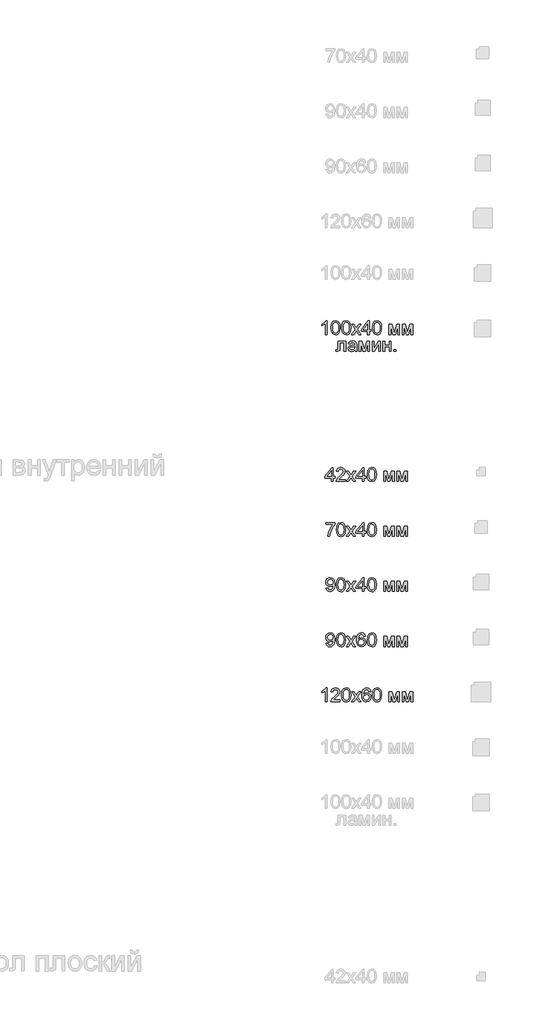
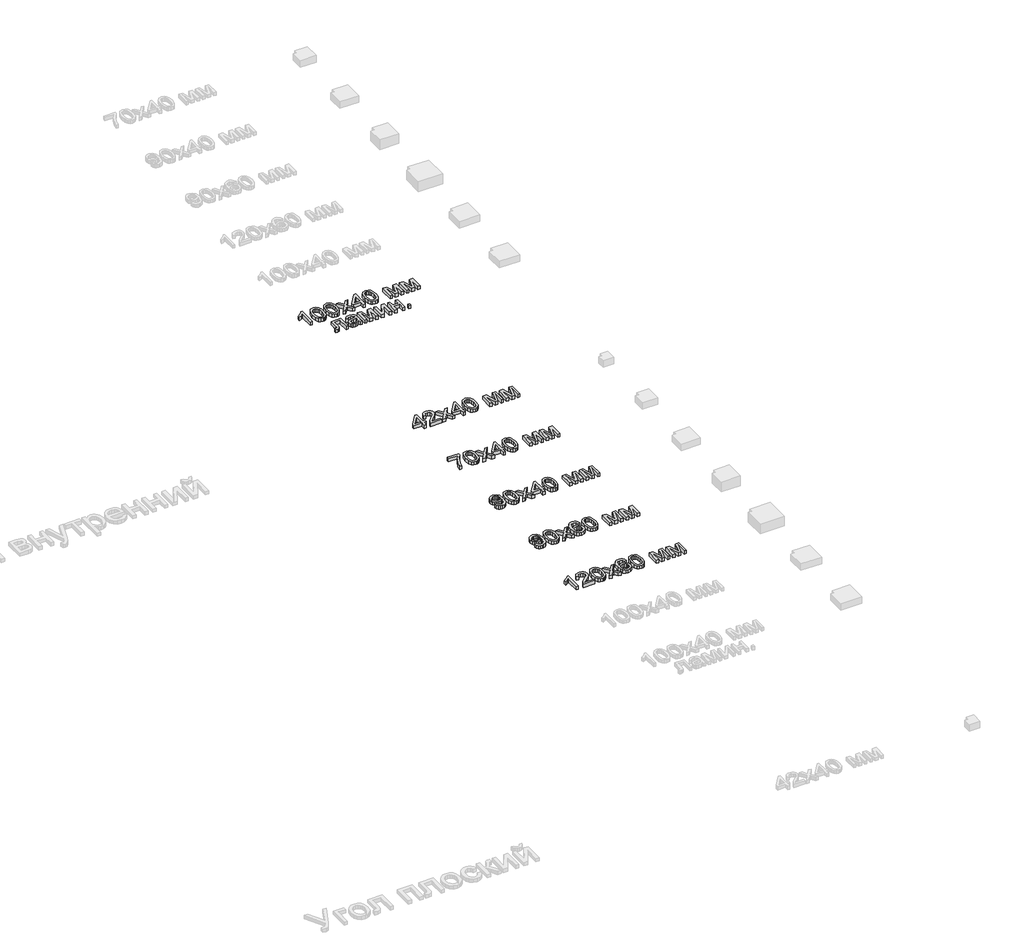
# One storey, part 12 of 21: 6 proxies.
"""IFC4 building model written with IfcOpenShell, lengths in millimetres."""

import ifcopenshell
import ifcopenshell.guid

model = None  # the IFC model being written
_history = None  # IfcOwnerHistory: only IFC2X3 demands one
_inside = {}  # id of a spatial element -> (the spatial element, [elements in it])
_under = {}  # id of a project, library or spatial element -> (it, [spatial elements below it])
_declared = {}  # id of a project -> (the project, [libraries it declares])
_typed = {}  # id of a type object -> (the type object, [elements of that type])
_made_of = {}  # id of a material, layer set ... -> (it, [elements and type objects made of it])


def new_model(schema):
    """Start an empty IFC model of exactly this schema.

    Asked for "IFC4X3", IfcOpenShell would pick the latest addendum, in which some entities
    have other attributes; the version numbers below select the first issue.
    IFC2X3 requires an IfcOwnerHistory on every rooted entity: one is made here for all.
    """
    global model, _history
    if schema == "IFC4X3":
        model = ifcopenshell.file(schema_version=(4, 3, 0, 0))
    else:
        model = ifcopenshell.file(schema=schema)
    _inside.clear()
    _under.clear()
    _declared.clear()
    _typed.clear()
    _made_of.clear()
    _history = None
    if model.schema == "IFC2X3":
        org = make("IfcOrganization", Name="unknown")
        user = make(
            "IfcPersonAndOrganization",
            ThePerson=make("IfcPerson", FamilyName="unknown"),
            TheOrganization=org,
        )
        app = make(
            "IfcApplication",
            ApplicationDeveloper=org,
            Version="unknown",
            ApplicationFullName="unknown",
            ApplicationIdentifier="unknown",
        )
        _history = make(
            "IfcOwnerHistory",
            OwningUser=user,
            OwningApplication=app,
            ChangeAction="ADDED",
            CreationDate=0,
        )
    return model


def make(cls, **values):
    """One entity of the class cls with the attributes given. An attribute that is None is left unset."""
    return model.create_entity(
        cls, **{name: value for name, value in values.items() if value is not None}
    )


def rooted(cls, **values):
    """An entity with a GlobalId (a new one), such as an element, a storey or a relation."""
    return make(cls, GlobalId=ifcopenshell.guid.new(), OwnerHistory=_history, **values)


def si_unit(unit_type, name, prefix=None):
    """IfcSIUnit, for example si_unit("LENGTHUNIT", "METRE", prefix="MILLI")."""
    return make("IfcSIUnit", UnitType=unit_type, Prefix=prefix, Name=name)


def assignment(units):
    """IfcUnitAssignment: the units of a project."""
    return None if units is None else make("IfcUnitAssignment", Units=units)


def point(xyz):
    """IfcCartesianPoint."""
    return None if xyz is None else make("IfcCartesianPoint", Coordinates=xyz)


def direction(xyz):
    """IfcDirection."""
    return None if xyz is None else make("IfcDirection", DirectionRatios=xyz)


def frame(location, z_axis=None, x_axis=None):
    """IfcAxis2Placement3D, a coordinate frame: its origin and axes. An axis left out is left unset."""
    return make(
        "IfcAxis2Placement3D",
        Location=point(location),
        Axis=direction(z_axis),
        RefDirection=direction(x_axis),
    )


def origin():
    """The frame at (0, 0, 0) with its axes left unset."""
    return frame((0.0, 0.0, 0.0))


def origin_with_axes():
    """The frame at (0, 0, 0) with the z axis (0, 0, 1) and the x axis (1, 0, 0) written out."""
    return frame((0.0, 0.0, 0.0), z_axis=(0.0, 0.0, 1.0), x_axis=(1.0, 0.0, 0.0))


def place(relative_to, where):
    """IfcLocalPlacement: puts the frame where relative to a parent placement (None: the world)."""
    return make(
        "IfcLocalPlacement", PlacementRelTo=relative_to, RelativePlacement=where
    )


def context(
    kind, dimensions, precision=None, world=None, true_north=None, identifier=None
):
    """IfcGeometricRepresentationContext, for example the 3D "Model" context."""
    return make(
        "IfcGeometricRepresentationContext",
        ContextIdentifier=identifier,
        ContextType=kind,
        CoordinateSpaceDimension=dimensions,
        Precision=precision,
        WorldCoordinateSystem=world,
        TrueNorth=true_north,
    )


def project(units=None, contexts=None):
    """IfcProject with its units and contexts."""
    return rooted(
        "IfcProject",
        Name="project",
        RepresentationContexts=contexts,
        UnitsInContext=assignment(units),
    )


def spatial(cls, under=None, at=None, **own):
    """A site, building, storey or space (cls), placed at a placement, below another one or the project."""
    s = rooted(cls, ObjectPlacement=at, **own)
    if under is not None:
        _under.setdefault(under.id(), (under, []))[1].append(s)
    return s


def polyline(points):
    """IfcPolyline through the points."""
    return make("IfcPolyline", Points=[point(p) for p in points])


def outline(outer, holes=None, kind="AREA"):
    """IfcArbitraryClosedProfileDef: a profile drawn as a closed curve; with holes, ...WithVoids."""
    if holes is None:
        return make("IfcArbitraryClosedProfileDef", ProfileType=kind, OuterCurve=outer)
    return make(
        "IfcArbitraryProfileDefWithVoids",
        ProfileType=kind,
        OuterCurve=outer,
        InnerCurves=holes,
    )


def extrude(swept, where, along, depth):
    """IfcExtrudedAreaSolid: the profile swept, set in the frame where, extruded along a direction by depth."""
    return make(
        "IfcExtrudedAreaSolid",
        SweptArea=swept,
        Position=where,
        ExtrudedDirection=direction(along),
        Depth=depth,
    )


def shape(context_of_items, identifier, shape_type, items):
    """IfcShapeRepresentation: the items that make up one representation, for example the "Body"."""
    return make(
        "IfcShapeRepresentation",
        ContextOfItems=context_of_items,
        RepresentationIdentifier=identifier,
        RepresentationType=shape_type,
        Items=items,
    )


def made_of(thing, what):
    """Note that an element or type object is made of a material, layer set ...; save() writes the relation."""
    if what is not None:
        _made_of.setdefault(what.id(), (what, []))[1].append(thing)
    return thing


def element(
    cls,
    number,
    at=None,
    inside=None,
    cuts=None,
    type_object=None,
    material=None,
    context=None,
    identifier="Body",
    shape_type=None,
    held_by="IfcProductDefinitionShape",
    body=None,
    shapes=None,
    **own,
):
    """One element of the class cls, such as IfcWall. Its Tag is "e" and its number.

    at: its placement. inside: the storey or other place that contains it. cuts: it is an
    opening in that element (IfcRelVoidsElement). A single representation is given by context,
    identifier, shape_type and body (its items); several are given by shapes. held_by: the class
    of the entity that holds the representations. save() writes the other relations.
    """
    e = rooted(cls, Tag="e%d" % number, ObjectPlacement=at, **own)
    if body is not None:
        shapes = [shape(context, identifier, shape_type, body)]
    if shapes is not None:
        e.Representation = make(held_by, Representations=shapes)
    if inside is not None:
        _inside.setdefault(inside.id(), (inside, []))[1].append(e)
    if cuts is not None:
        rooted(
            "IfcRelVoidsElement", RelatingBuildingElement=cuts, RelatedOpeningElement=e
        )
    if type_object is not None:
        _typed.setdefault(type_object.id(), (type_object, []))[1].append(e)
    return made_of(e, material)


def aggregate(whole, parts):
    """IfcRelAggregates: a whole, such as a stair, and the parts it consists of."""
    return rooted("IfcRelAggregates", RelatingObject=whole, RelatedObjects=parts)


def save(model, path):
    """Write the relations noted so far, then the file.

    IfcRelAggregates (storeys below a building ...), IfcRelContainedInSpatialStructure (elements
    in a storey), IfcRelDefinesByType, IfcRelAssociatesMaterial and IfcRelDeclares: one each for
    every whole, place, type object, material and project.
    """
    for whole, parts in _under.values():
        aggregate(whole, parts)
    for where, things in _inside.values():
        rooted(
            "IfcRelContainedInSpatialStructure",
            RelatedElements=things,
            RelatingStructure=where,
        )
    for kind, things in _typed.values():
        rooted("IfcRelDefinesByType", RelatedObjects=things, RelatingType=kind)
    for what, things in _made_of.values():
        rooted("IfcRelAssociatesMaterial", RelatedObjects=things, RelatingMaterial=what)
    for by, libraries in _declared.values():
        rooted("IfcRelDeclares", RelatingContext=by, RelatedDefinitions=libraries)
    model.write(path)


model = new_model("IFC4")

# Units and contexts
model_context = context("Model", 3, world=origin())
ifc_project = project(units=[si_unit("LENGTHUNIT", "METRE", prefix="MILLI")], contexts=[model_context])

# Site, building, storey
site = spatial("IfcSite", under=ifc_project)
building = spatial("IfcBuilding", under=site)
storey = spatial("IfcBuildingStorey", under=building, Name="Этаж 01", Elevation=0.0)

# Proxies
placement = place(None, origin())
element("IfcBuildingElementProxy", 1, Name="100 мм Arial", ObjectType="100 мм Arial", at=placement, inside=storey, context=model_context, shape_type="SweptSolid", body=[
    extrude(outline(polyline([(22758.4927799, -11133.4621169), (22745.9357412, -11133.4621169), (22745.9357412, -11055.1768283), (22734.04089, -11063.6503769), (22720.8216636, -11069.99021), (22720.8216636, -11058.1198843), (22739.2280261, -11046.3721859), (22750.399376, -11033.0058067), (22758.4927799, -11033.0058067), (22758.4927799, -11133.4621169)])), origin_with_axes(), (0.0, 0.0, 1.0), 20.0),
    extrude(outline(polyline([(22788.315747, -11084.0433022), (22792.0068297, -11055.1400401), (22802.9697131, -11038.4749857), (22821.2779738, -11033.0058067), (22835.9442026, -11036.2431683), (22846.0732202, -11045.5751082), (22851.9593322, -11060.4375408), (22854.2402005, -11084.0433022), (22850.585906, -11112.8239369), (22839.6598108, -11129.5257795), (22831.4284511, -11133.6552549), (22821.2779738, -11135.0317467), (22808.2304257, -11132.6405137), (22798.3221373, -11125.4668148), (22790.8173446, -11108.476798), (22788.315747, -11084.0433022)]), holes=[polyline([(22800.8727858, -11084.0187767), (22802.3443137, -11103.7709742), (22806.7588977, -11115.2029072), (22813.3317227, -11120.6567578), (22821.2779738, -11122.4747079), (22829.2242249, -11120.6506264), (22835.7970498, -11115.1783817), (22840.2116338, -11103.7403173), (22841.6831618, -11084.0187767), (22840.2606847, -11064.7111033), (22835.9932536, -11053.1902655), (22829.4326913, -11047.4697005), (22821.130821, -11045.5628455), (22813.270409, -11047.2428399), (22806.9551014, -11052.2828233), (22802.3933647, -11064.521031), (22800.8727858, -11084.0187767)])]), origin_with_axes(), (0.0, 0.0, 1.0), 20.0),
    extrude(outline(polyline([(22865.2276095, -11084.0433022), (22868.9186921, -11055.1400401), (22879.8815756, -11038.4749857), (22898.1898362, -11033.0058067), (22912.8560651, -11036.2431683), (22922.9850827, -11045.5751082), (22928.8711946, -11060.4375408), (22931.152063, -11084.0433022), (22927.4977685, -11112.8239369), (22916.5716732, -11129.5257795), (22908.3403136, -11133.6552549), (22898.1898362, -11135.0317467), (22885.1422881, -11132.6405137), (22875.2339997, -11125.4668148), (22867.729207, -11108.476798), (22865.2276095, -11084.0433022)]), holes=[polyline([(22877.7846482, -11084.0187767), (22879.2561762, -11103.7709742), (22883.6707601, -11115.2029072), (22890.2435851, -11120.6567578), (22898.1898362, -11122.4747079), (22906.1360873, -11120.6506264), (22912.7089123, -11115.1783817), (22917.1234962, -11103.7403173), (22918.5950242, -11084.0187767), (22917.1725472, -11064.7111033), (22912.905116, -11053.1902655), (22906.3445538, -11047.4697005), (22898.0426834, -11045.5628455), (22890.1822715, -11047.2428399), (22883.8669639, -11052.2828233), (22879.3052271, -11064.521031), (22877.7846482, -11084.0187767)])]), origin_with_axes(), (0.0, 0.0, 1.0), 20.0),
    extrude(outline(polyline([(22937.4305824, -11133.4621169), (22964.2614426, -11096.3796118), (22939.0002122, -11059.6895141), (22954.1078995, -11059.6895141), (22966.2970563, -11077.3478499), (22971.9869645, -11085.6865084), (22976.9165832, -11078.8684288), (22990.7979971, -11059.6895141), (23005.9056844, -11059.6895141), (22979.3691298, -11096.3796118), (23004.9246658, -11133.4621169), (22989.8169785, -11133.4621169), (22974.4395111, -11111.168468), (22971.6190825, -11107.0972405), (22952.5382696, -11133.4621169), (22937.4305824, -11133.4621169)])), origin_with_axes(), (0.0, 0.0, 1.0), 20.0),
    extrude(outline(polyline([(23053.583191, -11133.4621169), (23053.583191, -11109.9176692), (23008.0639254, -11109.9176692), (23008.0639254, -11097.3606304), (23056.7224507, -11034.5754366), (23066.1402298, -11034.5754366), (23066.1402298, -11097.3606304), (23078.6972685, -11097.3606304), (23078.6972685, -11109.9176692), (23066.1402298, -11109.9176692), (23066.1402298, -11133.4621169), (23053.583191, -11133.4621169)]), holes=[polyline([(23053.583191, -11097.3606304), (23053.583191, -11058.5613426), (23023.5149692, -11097.3606304), (23053.583191, -11097.3606304)])]), origin_with_axes(), (0.0, 0.0, 1.0), 20.0),
    extrude(outline(polyline([(23089.6846774, -11084.0433022), (23093.3757601, -11055.1400401), (23104.3386436, -11038.4749857), (23122.6469042, -11033.0058067), (23137.3131331, -11036.2431683), (23147.4421507, -11045.5751082), (23153.3282626, -11060.4375408), (23155.609131, -11084.0433022), (23151.9548365, -11112.8239369), (23141.0287412, -11129.5257795), (23132.7973816, -11133.6552549), (23122.6469042, -11135.0317467), (23109.5993561, -11132.6405137), (23099.6910677, -11125.4668148), (23092.186275, -11108.476798), (23089.6846774, -11084.0433022)]), holes=[polyline([(23102.2417162, -11084.0187767), (23103.7132442, -11103.7709742), (23108.1278281, -11115.2029072), (23114.7006531, -11120.6567578), (23122.6469042, -11122.4747079), (23130.5931553, -11120.6506264), (23137.1659803, -11115.1783817), (23141.5805642, -11103.7403173), (23143.0520922, -11084.0187767), (23141.6296152, -11064.7111033), (23137.362184, -11053.1902655), (23130.8016218, -11047.4697005), (23122.4997514, -11045.5628455), (23114.6393395, -11047.2428399), (23108.3240319, -11052.2828233), (23103.7622951, -11064.521031), (23102.2417162, -11084.0187767)])]), origin_with_axes(), (0.0, 0.0, 1.0), 20.0),
    extrude(outline(polyline([(23208.9765457, -11059.6895141), (23230.5834816, -11059.6895141), (23247.2362732, -11118.7468371), (23265.1889146, -11059.6895141), (23285.8884082, -11059.6895141), (23285.8884082, -11133.4621169), (23273.3313694, -11133.4621169), (23273.3313694, -11074.0614374), (23255.2806262, -11133.4621169), (23238.7995128, -11133.4621169), (23221.5335845, -11071.2164833), (23221.5335845, -11133.4621169), (23208.9765457, -11133.4621169), (23208.9765457, -11059.6895141)])), origin_with_axes(), (0.0, 0.0, 1.0), 20.0),
    extrude(outline(polyline([(23304.7239664, -11059.6895141), (23326.3309022, -11059.6895141), (23342.9836939, -11118.7468371), (23360.9363352, -11059.6895141), (23381.6358288, -11059.6895141), (23381.6358288, -11133.4621169), (23369.07879, -11133.4621169), (23369.07879, -11074.0614374), (23351.0280468, -11133.4621169), (23334.5469334, -11133.4621169), (23317.2810051, -11071.2164833), (23317.2810051, -11133.4621169), (23304.7239664, -11133.4621169), (23304.7239664, -11059.6895141)])), origin_with_axes(), (0.0, 0.0, 1.0), 20.0),
    extrude(outline(polyline([(22839.328717, -11181.6643319), (22895.8353915, -11181.6643319), (22895.8353915, -11255.3633583), (22883.2783527, -11255.3633583), (22883.2783527, -11194.2213707), (22851.8857558, -11194.2213707), (22851.8857558, -11229.4154149), (22851.0396272, -11245.6512736), (22846.3920513, -11252.5061415), (22835.4046424, -11255.4369347), (22825.2020484, -11254.7992726), (22825.2020484, -11242.8798959), (22830.8183802, -11242.8798959), (22836.4960256, -11242.1073438), (22838.7646313, -11239.6547971), (22839.328717, -11228.7041764), (22839.328717, -11181.6643319)])), origin_with_axes(), (0.0, 0.0, 1.0), 20.0),
    extrude(outline(polyline([(22961.759845, -11246.0191556), (22949.5829509, -11254.5294925), (22936.1307327, -11257.0065646), (22925.6368987, -11255.5166425), (22917.8960484, -11251.0468762), (22913.1227795, -11244.2594534), (22911.5316899, -11235.8165616), (22913.9351856, -11225.8837478), (22920.2504932, -11218.6732607), (22929.0428729, -11214.5529823), (22939.9076545, -11212.6645214), (22961.6862686, -11208.3480393), (22961.759845, -11205.5521362), (22958.3017542, -11196.2815099), (22944.4203403, -11192.6517409), (22931.7161487, -11195.0674993), (22925.6583585, -11203.6391498), (22913.1013198, -11202.0695199), (22918.5337106, -11189.8067868), (22929.4720685, -11182.6208251), (22946.0390211, -11180.0947021), (22961.2570729, -11182.3265195), (22969.8532489, -11187.9305886), (22973.7037471, -11196.4531882), (22974.3168838, -11207.4405971), (22974.3168838, -11223.0633191), (22974.9545459, -11244.8787215), (22977.4561434, -11255.4369347), (22964.8991047, -11255.4369347), (22961.759845, -11246.0191556)]), holes=[polyline([(22961.759845, -11220.9050781), (22941.5018098, -11224.7555763), (22930.6983419, -11226.79119), (22925.8055113, -11230.102128), (22924.0887287, -11234.9336448), (22927.8288623, -11241.727199), (22938.8040085, -11244.4495258), (22951.5082001, -11241.4451562), (22959.6997058, -11234.1733554), (22961.6862686, -11224.4612707), (22961.759845, -11220.9050781)])]), origin_with_axes(), (0.0, 0.0, 1.0), 20.0),
    extrude(outline(polyline([(22991.5828121, -11181.6643319), (23013.1897479, -11181.6643319), (23029.8425396, -11240.7216549), (23047.7951809, -11181.6643319), (23068.4946745, -11181.6643319), (23068.4946745, -11255.4369347), (23055.9376358, -11255.4369347), (23055.9376358, -11196.0362552), (23037.8868925, -11255.4369347), (23021.4057791, -11255.4369347), (23004.1398508, -11193.1913011), (23004.1398508, -11255.4369347), (22991.5828121, -11255.4369347), (22991.5828121, -11181.6643319)])), origin_with_axes(), (0.0, 0.0, 1.0), 20.0),
    extrude(outline(polyline([(23087.3302327, -11181.6643319), (23099.8872714, -11181.6643319), (23099.8872714, -11237.9257517), (23130.7403081, -11181.6643319), (23146.9761668, -11181.6643319), (23146.9761668, -11255.4369347), (23134.4191281, -11255.4369347), (23134.4191281, -11199.5188714), (23103.7622951, -11255.4369347), (23087.3302327, -11255.4369347), (23087.3302327, -11181.6643319)])), origin_with_axes(), (0.0, 0.0, 1.0), 20.0),
    extrude(outline(polyline([(23165.811725, -11181.6643319), (23178.3687637, -11181.6643319), (23178.3687637, -11209.9176692), (23211.3309905, -11209.9176692), (23211.3309905, -11181.6643319), (23223.8880293, -11181.6643319), (23223.8880293, -11255.4369347), (23211.3309905, -11255.4369347), (23211.3309905, -11222.4747079), (23178.3687637, -11222.4747079), (23178.3687637, -11255.4369347), (23165.811725, -11255.4369347), (23165.811725, -11181.6643319)])), origin_with_axes(), (0.0, 0.0, 1.0), 20.0),
    extrude(outline(polyline([(23245.8628471, -11255.4369347), (23245.8628471, -11242.8798959), (23258.4198859, -11242.8798959), (23258.4198859, -11255.4369347), (23245.8628471, -11255.4369347)])), origin_with_axes(), (0.0, 0.0, 1.0), 20.0),
])
element("IfcBuildingElementProxy", 2, Name="100 мм Arial", ObjectType="100 мм Arial", at=placement, inside=storey, context=model_context, shape_type="SweptSolid", body=[
    extrude(outline(polyline([(22790.6701918, -12198.4621169), (22790.6701918, -12174.9176692), (22745.1509262, -12174.9176692), (22745.1509262, -12162.3606304), (22793.8094515, -12099.5754366), (22803.2272305, -12099.5754366), (22803.2272305, -12162.3606304), (22815.7842693, -12162.3606304), (22815.7842693, -12174.9176692), (22803.2272305, -12174.9176692), (22803.2272305, -12198.4621169), (22790.6701918, -12198.4621169)]), holes=[polyline([(22790.6701918, -12162.3606304), (22790.6701918, -12123.5613426), (22760.60197, -12162.3606304), (22790.6701918, -12162.3606304)])]), origin_with_axes(), (0.0, 0.0, 1.0), 20.0),
    extrude(outline(polyline([(22891.1265019, -12185.9050781), (22891.1265019, -12198.4621169), (22825.2020484, -12198.4621169), (22826.550949, -12189.8046272), (22834.1783691, -12176.4750363), (22849.899193, -12161.919172), (22871.5797052, -12140.9989492), (22876.9998333, -12126.7741787), (22871.8862736, -12115.2594723), (22858.5321571, -12110.5628455), (22844.613955, -12115.1491077), (22839.328717, -12127.8287738), (22826.7716782, -12126.2591439), (22829.8159017, -12114.1129067), (22836.3979238, -12105.2408193), (22846.1743878, -12099.8145599), (22858.8019373, -12098.0058067), (22871.5214573, -12100.016895), (22881.2795272, -12106.0501597), (22887.4875358, -12115.0632686), (22889.5568721, -12126.0138893), (22887.3250546, -12137.9210032), (22879.9061011, -12150.2327873), (22861.9166715, -12167.4374019), (22847.4711718, -12179.5161941), (22841.8057891, -12185.9050781), (22891.1265019, -12185.9050781)])), origin_with_axes(), (0.0, 0.0, 1.0), 20.0),
    extrude(outline(polyline([(22898.9746511, -12198.4621169), (22925.8055113, -12161.3796118), (22900.544281, -12124.6895141), (22915.6519683, -12124.6895141), (22927.841125, -12142.3478499), (22933.5310332, -12150.6865084), (22938.460652, -12143.8684288), (22952.3420659, -12124.6895141), (22967.4497532, -12124.6895141), (22940.9131986, -12161.3796118), (22966.4687345, -12198.4621169), (22951.3610473, -12198.4621169), (22935.9835799, -12176.168468), (22933.1631512, -12172.0972405), (22914.0823384, -12198.4621169), (22898.9746511, -12198.4621169)])), origin_with_axes(), (0.0, 0.0, 1.0), 20.0),
    extrude(outline(polyline([(23015.1272598, -12198.4621169), (23015.1272598, -12174.9176692), (22969.6079942, -12174.9176692), (22969.6079942, -12162.3606304), (23018.2665194, -12099.5754366), (23027.6842985, -12099.5754366), (23027.6842985, -12162.3606304), (23040.2413373, -12162.3606304), (23040.2413373, -12174.9176692), (23027.6842985, -12174.9176692), (23027.6842985, -12198.4621169), (23015.1272598, -12198.4621169)]), holes=[polyline([(23015.1272598, -12162.3606304), (23015.1272598, -12123.5613426), (22985.059038, -12162.3606304), (23015.1272598, -12162.3606304)])]), origin_with_axes(), (0.0, 0.0, 1.0), 20.0),
    extrude(outline(polyline([(23051.2287462, -12149.0433022), (23054.9198289, -12120.1400401), (23065.8827124, -12103.4749857), (23084.190973, -12098.0058067), (23098.8572019, -12101.2431683), (23108.9862195, -12110.5751082), (23114.8723314, -12125.4375408), (23117.1531998, -12149.0433022), (23113.4989053, -12177.8239369), (23102.57281, -12194.5257795), (23094.3414504, -12198.6552549), (23084.190973, -12200.0317467), (23071.1434249, -12197.6405137), (23061.2351365, -12190.4668148), (23053.7303438, -12173.476798), (23051.2287462, -12149.0433022)]), holes=[polyline([(23063.785785, -12149.0187767), (23065.257313, -12168.7709742), (23069.6718969, -12180.2029072), (23076.2447219, -12185.6567578), (23084.190973, -12187.4747079), (23092.1372241, -12185.6506264), (23098.7100491, -12180.1783817), (23103.124633, -12168.7403173), (23104.596161, -12149.0187767), (23103.1736839, -12129.7111033), (23098.9062528, -12118.1902655), (23092.3456905, -12112.4697005), (23084.0438202, -12110.5628455), (23076.1834082, -12112.2428399), (23069.8681006, -12117.2828233), (23065.3063639, -12129.521031), (23063.785785, -12149.0187767)])]), origin_with_axes(), (0.0, 0.0, 1.0), 20.0),
    extrude(outline(polyline([(23170.5206145, -12124.6895141), (23192.1275504, -12124.6895141), (23208.780342, -12183.7468371), (23226.7329834, -12124.6895141), (23247.432477, -12124.6895141), (23247.432477, -12198.4621169), (23234.8754382, -12198.4621169), (23234.8754382, -12139.0614374), (23216.824695, -12198.4621169), (23200.3435816, -12198.4621169), (23183.0776533, -12136.2164833), (23183.0776533, -12198.4621169), (23170.5206145, -12198.4621169), (23170.5206145, -12124.6895141)])), origin_with_axes(), (0.0, 0.0, 1.0), 20.0),
    extrude(outline(polyline([(23266.2680351, -12124.6895141), (23287.874971, -12124.6895141), (23304.5277626, -12183.7468371), (23322.480404, -12124.6895141), (23343.1798976, -12124.6895141), (23343.1798976, -12198.4621169), (23330.6228588, -12198.4621169), (23330.6228588, -12139.0614374), (23312.5721156, -12198.4621169), (23296.0910022, -12198.4621169), (23278.8250739, -12136.2164833), (23278.8250739, -12198.4621169), (23266.2680351, -12198.4621169), (23266.2680351, -12124.6895141)])), origin_with_axes(), (0.0, 0.0, 1.0), 20.0),
])
element("IfcBuildingElementProxy", 3, Name="100 мм Arial", ObjectType="100 мм Arial", at=placement, inside=storey, context=model_context, shape_type="SweptSolid", body=[
    extrude(outline(polyline([(22749.8598158, -12512.1324753), (22749.8598158, -12499.5754366), (22815.7842693, -12499.5754366), (22815.7842693, -12509.7289796), (22797.0836012, -12536.7437808), (22782.7729916, -12571.1652728), (22778.113153, -12598.4621169), (22765.5561142, -12598.4621169), (22770.5470466, -12570.1352032), (22784.2445196, -12538.1172069), (22803.2272305, -12512.1324753), (22749.8598158, -12512.1324753)])), origin_with_axes(), (0.0, 0.0, 1.0), 20.0),
    extrude(outline(polyline([(22826.7716782, -12549.0433022), (22830.4627609, -12520.1400401), (22841.4256444, -12503.4749857), (22859.733905, -12498.0058067), (22874.4001339, -12501.2431683), (22884.5291515, -12510.5751082), (22890.4152634, -12525.4375408), (22892.6961318, -12549.0433022), (22889.0418373, -12577.8239369), (22878.115742, -12594.5257795), (22869.8843824, -12598.6552549), (22859.733905, -12600.0317467), (22846.6863569, -12597.6405137), (22836.7780685, -12590.4668148), (22829.2732758, -12573.476798), (22826.7716782, -12549.0433022)]), holes=[polyline([(22839.328717, -12549.0187767), (22840.800245, -12568.7709742), (22845.2148289, -12580.2029072), (22851.7876539, -12585.6567578), (22859.733905, -12587.4747079), (22867.6801561, -12585.6506264), (22874.2529811, -12580.1783817), (22878.667565, -12568.7403173), (22880.139093, -12549.0187767), (22878.7166159, -12529.7111033), (22874.4491848, -12518.1902655), (22867.8886226, -12512.4697005), (22859.5867522, -12510.5628455), (22851.7263402, -12512.2428399), (22845.4110326, -12517.2828233), (22840.8492959, -12529.521031), (22839.328717, -12549.0187767)])]), origin_with_axes(), (0.0, 0.0, 1.0), 20.0),
    extrude(outline(polyline([(22898.9746511, -12598.4621169), (22925.8055113, -12561.3796118), (22900.544281, -12524.6895141), (22915.6519683, -12524.6895141), (22927.841125, -12542.3478499), (22933.5310332, -12550.6865084), (22938.460652, -12543.8684288), (22952.3420659, -12524.6895141), (22967.4497532, -12524.6895141), (22940.9131986, -12561.3796118), (22966.4687345, -12598.4621169), (22951.3610473, -12598.4621169), (22935.9835799, -12576.168468), (22933.1631512, -12572.0972405), (22914.0823384, -12598.4621169), (22898.9746511, -12598.4621169)])), origin_with_axes(), (0.0, 0.0, 1.0), 20.0),
    extrude(outline(polyline([(23015.1272598, -12598.4621169), (23015.1272598, -12574.9176692), (22969.6079942, -12574.9176692), (22969.6079942, -12562.3606304), (23018.2665194, -12499.5754366), (23027.6842985, -12499.5754366), (23027.6842985, -12562.3606304), (23040.2413373, -12562.3606304), (23040.2413373, -12574.9176692), (23027.6842985, -12574.9176692), (23027.6842985, -12598.4621169), (23015.1272598, -12598.4621169)]), holes=[polyline([(23015.1272598, -12562.3606304), (23015.1272598, -12523.5613426), (22985.059038, -12562.3606304), (23015.1272598, -12562.3606304)])]), origin_with_axes(), (0.0, 0.0, 1.0), 20.0),
    extrude(outline(polyline([(23051.2287462, -12549.0433022), (23054.9198289, -12520.1400401), (23065.8827124, -12503.4749857), (23084.190973, -12498.0058067), (23098.8572019, -12501.2431683), (23108.9862195, -12510.5751082), (23114.8723314, -12525.4375408), (23117.1531998, -12549.0433022), (23113.4989053, -12577.8239369), (23102.57281, -12594.5257795), (23094.3414504, -12598.6552549), (23084.190973, -12600.0317467), (23071.1434249, -12597.6405137), (23061.2351365, -12590.4668148), (23053.7303438, -12573.476798), (23051.2287462, -12549.0433022)]), holes=[polyline([(23063.785785, -12549.0187767), (23065.257313, -12568.7709742), (23069.6718969, -12580.2029072), (23076.2447219, -12585.6567578), (23084.190973, -12587.4747079), (23092.1372241, -12585.6506264), (23098.7100491, -12580.1783817), (23103.124633, -12568.7403173), (23104.596161, -12549.0187767), (23103.1736839, -12529.7111033), (23098.9062528, -12518.1902655), (23092.3456905, -12512.4697005), (23084.0438202, -12510.5628455), (23076.1834082, -12512.2428399), (23069.8681006, -12517.2828233), (23065.3063639, -12529.521031), (23063.785785, -12549.0187767)])]), origin_with_axes(), (0.0, 0.0, 1.0), 20.0),
    extrude(outline(polyline([(23170.5206145, -12524.6895141), (23192.1275504, -12524.6895141), (23208.780342, -12583.7468371), (23226.7329834, -12524.6895141), (23247.432477, -12524.6895141), (23247.432477, -12598.4621169), (23234.8754382, -12598.4621169), (23234.8754382, -12539.0614374), (23216.824695, -12598.4621169), (23200.3435816, -12598.4621169), (23183.0776533, -12536.2164833), (23183.0776533, -12598.4621169), (23170.5206145, -12598.4621169), (23170.5206145, -12524.6895141)])), origin_with_axes(), (0.0, 0.0, 1.0), 20.0),
    extrude(outline(polyline([(23266.2680351, -12524.6895141), (23287.874971, -12524.6895141), (23304.5277626, -12583.7468371), (23322.480404, -12524.6895141), (23343.1798976, -12524.6895141), (23343.1798976, -12598.4621169), (23330.6228588, -12598.4621169), (23330.6228588, -12539.0614374), (23312.5721156, -12598.4621169), (23296.0910022, -12598.4621169), (23278.8250739, -12536.2164833), (23278.8250739, -12598.4621169), (23266.2680351, -12598.4621169), (23266.2680351, -12524.6895141)])), origin_with_axes(), (0.0, 0.0, 1.0), 20.0),
])
element("IfcBuildingElementProxy", 4, Name="100 мм Arial", ObjectType="100 мм Arial", at=placement, inside=storey, context=model_context, shape_type="SweptSolid", body=[
    extrude(outline(polyline([(22751.4294456, -12973.3480393), (22763.9864844, -12971.7784095), (22769.6273416, -12983.7590998), (22780.320445, -12987.4747079), (22790.4862508, -12985.083475), (22797.3779068, -12978.694591), (22801.4859224, -12967.7807585), (22803.3008069, -12953.2126315), (22803.2272305, -12950.7600848), (22793.1840521, -12960.2759658), (22779.4130027, -12963.9302603), (22767.9626756, -12961.6984428), (22758.4314663, -12955.0029905), (22752.0027284, -12944.6593751), (22749.8598158, -12931.4830683), (22752.1069616, -12917.8714345), (22758.8483992, -12907.2028566), (22768.9743511, -12900.3050692), (22781.37504, -12898.0058067), (22799.2663677, -12903.2542565), (22811.5781518, -12918.214791), (22815.7842693, -12946.3209754), (22811.5904146, -12976.8183928), (22806.3756873, -12986.8094547), (22799.1192149, -12994.0965839), (22790.1336972, -12998.547956), (22779.7318338, -13000.0317467), (22768.9958109, -12998.2812416), (22760.4302918, -12993.0297261), (22754.4399466, -12984.6082941), (22751.4294456, -12973.3480393)]), holes=[polyline([(22803.2272305, -12931.1887627), (22801.8721985, -12922.6784259), (22797.8071025, -12916.1301263), (22791.4979263, -12911.9546657), (22783.4106537, -12910.5628455), (22775.0229442, -12912.0619646), (22768.3029665, -12916.559322), (22763.8883825, -12923.441781), (22762.4168545, -12932.0962049), (22763.8086748, -12939.8554494), (22767.9841354, -12946.0144071), (22774.5385663, -12950.0335179), (22783.0672972, -12951.3732215), (22797.5495851, -12946.0144071), (22801.8078192, -12939.6285888), (22803.2272305, -12931.1887627)])]), origin_with_axes(), (0.0, 0.0, 1.0), 20.0),
    extrude(outline(polyline([(22826.7716782, -12949.0433022), (22830.4627609, -12920.1400401), (22841.4256444, -12903.4749857), (22859.733905, -12898.0058067), (22874.4001339, -12901.2431683), (22884.5291515, -12910.5751082), (22890.4152634, -12925.4375408), (22892.6961318, -12949.0433022), (22889.0418373, -12977.8239369), (22878.115742, -12994.5257795), (22869.8843824, -12998.6552549), (22859.733905, -13000.0317467), (22846.6863569, -12997.6405137), (22836.7780685, -12990.4668148), (22829.2732758, -12973.476798), (22826.7716782, -12949.0433022)]), holes=[polyline([(22839.328717, -12949.0187767), (22840.800245, -12968.7709742), (22845.2148289, -12980.2029072), (22851.7876539, -12985.6567578), (22859.733905, -12987.4747079), (22867.6801561, -12985.6506264), (22874.2529811, -12980.1783817), (22878.667565, -12968.7403173), (22880.139093, -12949.0187767), (22878.7166159, -12929.7111033), (22874.4491848, -12918.1902655), (22867.8886226, -12912.4697005), (22859.5867522, -12910.5628455), (22851.7263402, -12912.2428399), (22845.4110326, -12917.2828233), (22840.8492959, -12929.521031), (22839.328717, -12949.0187767)])]), origin_with_axes(), (0.0, 0.0, 1.0), 20.0),
    extrude(outline(polyline([(22898.9746511, -12998.4621169), (22925.8055113, -12961.3796118), (22900.544281, -12924.6895141), (22915.6519683, -12924.6895141), (22927.841125, -12942.3478499), (22933.5310332, -12950.6865084), (22938.460652, -12943.8684288), (22952.3420659, -12924.6895141), (22967.4497532, -12924.6895141), (22940.9131986, -12961.3796118), (22966.4687345, -12998.4621169), (22951.3610473, -12998.4621169), (22935.9835799, -12976.168468), (22933.1631512, -12972.0972405), (22914.0823384, -12998.4621169), (22898.9746511, -12998.4621169)])), origin_with_axes(), (0.0, 0.0, 1.0), 20.0),
    extrude(outline(polyline([(23015.1272598, -12998.4621169), (23015.1272598, -12974.9176692), (22969.6079942, -12974.9176692), (22969.6079942, -12962.3606304), (23018.2665194, -12899.5754366), (23027.6842985, -12899.5754366), (23027.6842985, -12962.3606304), (23040.2413373, -12962.3606304), (23040.2413373, -12974.9176692), (23027.6842985, -12974.9176692), (23027.6842985, -12998.4621169), (23015.1272598, -12998.4621169)]), holes=[polyline([(23015.1272598, -12962.3606304), (23015.1272598, -12923.5613426), (22985.059038, -12962.3606304), (23015.1272598, -12962.3606304)])]), origin_with_axes(), (0.0, 0.0, 1.0), 20.0),
    extrude(outline(polyline([(23051.2287462, -12949.0433022), (23054.9198289, -12920.1400401), (23065.8827124, -12903.4749857), (23084.190973, -12898.0058067), (23098.8572019, -12901.2431683), (23108.9862195, -12910.5751082), (23114.8723314, -12925.4375408), (23117.1531998, -12949.0433022), (23113.4989053, -12977.8239369), (23102.57281, -12994.5257795), (23094.3414504, -12998.6552549), (23084.190973, -13000.0317467), (23071.1434249, -12997.6405137), (23061.2351365, -12990.4668148), (23053.7303438, -12973.476798), (23051.2287462, -12949.0433022)]), holes=[polyline([(23063.785785, -12949.0187767), (23065.257313, -12968.7709742), (23069.6718969, -12980.2029072), (23076.2447219, -12985.6567578), (23084.190973, -12987.4747079), (23092.1372241, -12985.6506264), (23098.7100491, -12980.1783817), (23103.124633, -12968.7403173), (23104.596161, -12949.0187767), (23103.1736839, -12929.7111033), (23098.9062528, -12918.1902655), (23092.3456905, -12912.4697005), (23084.0438202, -12910.5628455), (23076.1834082, -12912.2428399), (23069.8681006, -12917.2828233), (23065.3063639, -12929.521031), (23063.785785, -12949.0187767)])]), origin_with_axes(), (0.0, 0.0, 1.0), 20.0),
    extrude(outline(polyline([(23170.5206145, -12924.6895141), (23192.1275504, -12924.6895141), (23208.780342, -12983.7468371), (23226.7329834, -12924.6895141), (23247.432477, -12924.6895141), (23247.432477, -12998.4621169), (23234.8754382, -12998.4621169), (23234.8754382, -12939.0614374), (23216.824695, -12998.4621169), (23200.3435816, -12998.4621169), (23183.0776533, -12936.2164833), (23183.0776533, -12998.4621169), (23170.5206145, -12998.4621169), (23170.5206145, -12924.6895141)])), origin_with_axes(), (0.0, 0.0, 1.0), 20.0),
    extrude(outline(polyline([(23266.2680351, -12924.6895141), (23287.874971, -12924.6895141), (23304.5277626, -12983.7468371), (23322.480404, -12924.6895141), (23343.1798976, -12924.6895141), (23343.1798976, -12998.4621169), (23330.6228588, -12998.4621169), (23330.6228588, -12939.0614374), (23312.5721156, -12998.4621169), (23296.0910022, -12998.4621169), (23278.8250739, -12936.2164833), (23278.8250739, -12998.4621169), (23266.2680351, -12998.4621169), (23266.2680351, -12924.6895141)])), origin_with_axes(), (0.0, 0.0, 1.0), 20.0),
])
element("IfcBuildingElementProxy", 5, Name="100 мм Arial", ObjectType="100 мм Arial", at=placement, inside=storey, context=model_context, shape_type="SweptSolid", body=[
    extrude(outline(polyline([(22751.4294456, -13373.3480393), (22763.9864844, -13371.7784095), (22769.6273416, -13383.7590998), (22780.320445, -13387.4747079), (22790.4862508, -13385.083475), (22797.3779068, -13378.694591), (22801.4859224, -13367.7807585), (22803.3008069, -13353.2126315), (22803.2272305, -13350.7600848), (22793.1840521, -13360.2759658), (22779.4130027, -13363.9302603), (22767.9626756, -13361.6984428), (22758.4314663, -13355.0029905), (22752.0027284, -13344.6593751), (22749.8598158, -13331.4830683), (22752.1069616, -13317.8714345), (22758.8483992, -13307.2028566), (22768.9743511, -13300.3050692), (22781.37504, -13298.0058067), (22799.2663677, -13303.2542565), (22811.5781518, -13318.214791), (22815.7842693, -13346.3209754), (22811.5904146, -13376.8183928), (22806.3756873, -13386.8094547), (22799.1192149, -13394.0965839), (22790.1336972, -13398.547956), (22779.7318338, -13400.0317467), (22768.9958109, -13398.2812416), (22760.4302918, -13393.0297261), (22754.4399466, -13384.6082941), (22751.4294456, -13373.3480393)]), holes=[polyline([(22803.2272305, -13331.1887627), (22801.8721985, -13322.6784259), (22797.8071025, -13316.1301263), (22791.4979263, -13311.9546657), (22783.4106537, -13310.5628455), (22775.0229442, -13312.0619646), (22768.3029665, -13316.559322), (22763.8883825, -13323.441781), (22762.4168545, -13332.0962049), (22763.8086748, -13339.8554494), (22767.9841354, -13346.0144071), (22774.5385663, -13350.0335179), (22783.0672972, -13351.3732215), (22797.5495851, -13346.0144071), (22801.8078192, -13339.6285888), (22803.2272305, -13331.1887627)])]), origin_with_axes(), (0.0, 0.0, 1.0), 20.0),
    extrude(outline(polyline([(22826.7716782, -13349.0433022), (22830.4627609, -13320.1400401), (22841.4256444, -13303.4749857), (22859.733905, -13298.0058067), (22874.4001339, -13301.2431683), (22884.5291515, -13310.5751082), (22890.4152634, -13325.4375408), (22892.6961318, -13349.0433022), (22889.0418373, -13377.8239369), (22878.115742, -13394.5257795), (22869.8843824, -13398.6552549), (22859.733905, -13400.0317467), (22846.6863569, -13397.6405137), (22836.7780685, -13390.4668148), (22829.2732758, -13373.476798), (22826.7716782, -13349.0433022)]), holes=[polyline([(22839.328717, -13349.0187767), (22840.800245, -13368.7709742), (22845.2148289, -13380.2029072), (22851.7876539, -13385.6567578), (22859.733905, -13387.4747079), (22867.6801561, -13385.6506264), (22874.2529811, -13380.1783817), (22878.667565, -13368.7403173), (22880.139093, -13349.0187767), (22878.7166159, -13329.7111033), (22874.4491848, -13318.1902655), (22867.8886226, -13312.4697005), (22859.5867522, -13310.5628455), (22851.7263402, -13312.2428399), (22845.4110326, -13317.2828233), (22840.8492959, -13329.521031), (22839.328717, -13349.0187767)])]), origin_with_axes(), (0.0, 0.0, 1.0), 20.0),
    extrude(outline(polyline([(22898.9746511, -13398.4621169), (22925.8055113, -13361.3796118), (22900.544281, -13324.6895141), (22915.6519683, -13324.6895141), (22927.841125, -13342.3478499), (22933.5310332, -13350.6865084), (22938.460652, -13343.8684288), (22952.3420659, -13324.6895141), (22967.4497532, -13324.6895141), (22940.9131986, -13361.3796118), (22966.4687345, -13398.4621169), (22951.3610473, -13398.4621169), (22935.9835799, -13376.168468), (22933.1631512, -13372.0972405), (22914.0823384, -13398.4621169), (22898.9746511, -13398.4621169)])), origin_with_axes(), (0.0, 0.0, 1.0), 20.0),
    extrude(outline(polyline([(23038.6717074, -13324.6895141), (23026.1146687, -13326.2591439), (23021.3567282, -13315.7867698), (23008.775164, -13310.5628455), (22997.4443985, -13313.6040033), (22988.872748, -13325.0206079), (22985.3042927, -13347.4000959), (22996.3775407, -13337.3814429), (23010.0995392, -13334.1072932), (23021.7000847, -13336.345242), (23031.4366949, -13343.0590884), (23038.0401767, -13353.3168647), (23040.2413373, -13366.1866032), (23036.0965335, -13383.5138451), (23024.6921916, -13395.7765783), (23008.2356037, -13400.0317467), (22993.9893734, -13397.2113181), (22982.6432796, -13388.7500322), (22975.2212603, -13373.8140232), (22972.7472539, -13351.5694252), (22975.4941061, -13326.5595809), (22983.7346628, -13309.4591995), (22994.9857205, -13300.8691549), (23009.5599789, -13298.0058067), (23020.5780447, -13299.7777717), (23029.4010812, -13305.0936665), (23035.5814987, -13313.5365583), (23038.6717074, -13324.6895141)]), holes=[polyline([(22985.3042927, -13365.9903994), (22988.2105604, -13376.8674438), (22995.9360823, -13384.7646439), (23007.2545851, -13387.4747079), (23015.541127, -13386.070625), (23022.055704, -13381.8583762), (23026.2771499, -13375.2365002), (23027.6842985, -13366.6035361), (23026.295544, -13358.3169941), (23022.1292804, -13351.9986209), (23015.5043388, -13347.9979042), (23006.7395503, -13346.6643319), (22991.5460239, -13351.9986209), (22986.8647255, -13358.16371), (22985.3042927, -13365.9903994)])]), origin_with_axes(), (0.0, 0.0, 1.0), 20.0),
    extrude(outline(polyline([(23051.2287462, -13349.0433022), (23054.9198289, -13320.1400401), (23065.8827124, -13303.4749857), (23084.190973, -13298.0058067), (23098.8572019, -13301.2431683), (23108.9862195, -13310.5751082), (23114.8723314, -13325.4375408), (23117.1531998, -13349.0433022), (23113.4989053, -13377.8239369), (23102.57281, -13394.5257795), (23094.3414504, -13398.6552549), (23084.190973, -13400.0317467), (23071.1434249, -13397.6405137), (23061.2351365, -13390.4668148), (23053.7303438, -13373.476798), (23051.2287462, -13349.0433022)]), holes=[polyline([(23063.785785, -13349.0187767), (23065.257313, -13368.7709742), (23069.6718969, -13380.2029072), (23076.2447219, -13385.6567578), (23084.190973, -13387.4747079), (23092.1372241, -13385.6506264), (23098.7100491, -13380.1783817), (23103.124633, -13368.7403173), (23104.596161, -13349.0187767), (23103.1736839, -13329.7111033), (23098.9062528, -13318.1902655), (23092.3456905, -13312.4697005), (23084.0438202, -13310.5628455), (23076.1834082, -13312.2428399), (23069.8681006, -13317.2828233), (23065.3063639, -13329.521031), (23063.785785, -13349.0187767)])]), origin_with_axes(), (0.0, 0.0, 1.0), 20.0),
    extrude(outline(polyline([(23170.5206145, -13324.6895141), (23192.1275504, -13324.6895141), (23208.780342, -13383.7468371), (23226.7329834, -13324.6895141), (23247.432477, -13324.6895141), (23247.432477, -13398.4621169), (23234.8754382, -13398.4621169), (23234.8754382, -13339.0614374), (23216.824695, -13398.4621169), (23200.3435816, -13398.4621169), (23183.0776533, -13336.2164833), (23183.0776533, -13398.4621169), (23170.5206145, -13398.4621169), (23170.5206145, -13324.6895141)])), origin_with_axes(), (0.0, 0.0, 1.0), 20.0),
    extrude(outline(polyline([(23266.2680351, -13324.6895141), (23287.874971, -13324.6895141), (23304.5277626, -13383.7468371), (23322.480404, -13324.6895141), (23343.1798976, -13324.6895141), (23343.1798976, -13398.4621169), (23330.6228588, -13398.4621169), (23330.6228588, -13339.0614374), (23312.5721156, -13398.4621169), (23296.0910022, -13398.4621169), (23278.8250739, -13336.2164833), (23278.8250739, -13398.4621169), (23266.2680351, -13398.4621169), (23266.2680351, -13324.6895141)])), origin_with_axes(), (0.0, 0.0, 1.0), 20.0),
])
element("IfcBuildingElementProxy", 6, Name="100 мм Arial", ObjectType="100 мм Arial", at=placement, inside=storey, context=model_context, shape_type="SweptSolid", body=[
    extrude(outline(polyline([(22758.4927799, -13798.4621169), (22745.9357412, -13798.4621169), (22745.9357412, -13720.1768283), (22734.04089, -13728.6503769), (22720.8216636, -13734.99021), (22720.8216636, -13723.1198843), (22739.2280261, -13711.3721859), (22750.399376, -13698.0058067), (22758.4927799, -13698.0058067), (22758.4927799, -13798.4621169)])), origin_with_axes(), (0.0, 0.0, 1.0), 20.0),
    extrude(outline(polyline([(22852.6705707, -13785.9050781), (22852.6705707, -13798.4621169), (22786.7461171, -13798.4621169), (22788.0950178, -13789.8046272), (22795.7224378, -13776.4750363), (22811.4432618, -13761.919172), (22833.123774, -13740.9989492), (22838.5439021, -13726.7741787), (22833.4303423, -13715.2594723), (22820.0762259, -13710.5628455), (22806.1580238, -13715.1491077), (22800.8727858, -13727.8287738), (22788.315747, -13726.2591439), (22791.3599705, -13714.1129067), (22797.9419925, -13705.2408193), (22807.7184566, -13699.8145599), (22820.346006, -13698.0058067), (22833.065526, -13700.016895), (22842.8235959, -13706.0501597), (22849.0316046, -13715.0632686), (22851.1009408, -13726.0138893), (22848.8691234, -13737.9210032), (22841.4501698, -13750.2327873), (22823.4607403, -13767.4374019), (22809.0152406, -13779.5161941), (22803.3498579, -13785.9050781), (22852.6705707, -13785.9050781)])), origin_with_axes(), (0.0, 0.0, 1.0), 20.0),
    extrude(outline(polyline([(22865.2276095, -13749.0433022), (22868.9186921, -13720.1400401), (22879.8815756, -13703.4749857), (22898.1898362, -13698.0058067), (22912.8560651, -13701.2431683), (22922.9850827, -13710.5751082), (22928.8711946, -13725.4375408), (22931.152063, -13749.0433022), (22927.4977685, -13777.8239369), (22916.5716732, -13794.5257795), (22908.3403136, -13798.6552549), (22898.1898362, -13800.0317467), (22885.1422881, -13797.6405137), (22875.2339997, -13790.4668148), (22867.729207, -13773.476798), (22865.2276095, -13749.0433022)]), holes=[polyline([(22877.7846482, -13749.0187767), (22879.2561762, -13768.7709742), (22883.6707601, -13780.2029072), (22890.2435851, -13785.6567578), (22898.1898362, -13787.4747079), (22906.1360873, -13785.6506264), (22912.7089123, -13780.1783817), (22917.1234962, -13768.7403173), (22918.5950242, -13749.0187767), (22917.1725472, -13729.7111033), (22912.905116, -13718.1902655), (22906.3445538, -13712.4697005), (22898.0426834, -13710.5628455), (22890.1822715, -13712.2428399), (22883.8669639, -13717.2828233), (22879.3052271, -13729.521031), (22877.7846482, -13749.0187767)])]), origin_with_axes(), (0.0, 0.0, 1.0), 20.0),
    extrude(outline(polyline([(22937.4305824, -13798.4621169), (22964.2614426, -13761.3796118), (22939.0002122, -13724.6895141), (22954.1078995, -13724.6895141), (22966.2970563, -13742.3478499), (22971.9869645, -13750.6865084), (22976.9165832, -13743.8684288), (22990.7979971, -13724.6895141), (23005.9056844, -13724.6895141), (22979.3691298, -13761.3796118), (23004.9246658, -13798.4621169), (22989.8169785, -13798.4621169), (22974.4395111, -13776.168468), (22971.6190825, -13772.0972405), (22952.5382696, -13798.4621169), (22937.4305824, -13798.4621169)])), origin_with_axes(), (0.0, 0.0, 1.0), 20.0),
    extrude(outline(polyline([(23077.1276387, -13724.6895141), (23064.5705999, -13726.2591439), (23059.8126594, -13715.7867698), (23047.2310952, -13710.5628455), (23035.9003297, -13713.6040033), (23027.3286793, -13725.0206079), (23023.7602239, -13747.4000959), (23034.833472, -13737.3814429), (23048.5554704, -13734.1072932), (23060.156016, -13736.345242), (23069.8926261, -13743.0590884), (23076.4961079, -13753.3168647), (23078.6972685, -13766.1866032), (23074.5524647, -13783.5138451), (23063.1481229, -13795.7765783), (23046.6915349, -13800.0317467), (23032.4453047, -13797.2113181), (23021.0992108, -13788.7500322), (23013.6771916, -13773.8140232), (23011.2031851, -13751.5694252), (23013.9500374, -13726.5595809), (23022.1905941, -13709.4591995), (23033.4416517, -13700.8691549), (23048.0159101, -13698.0058067), (23059.0339759, -13699.7777717), (23067.8570124, -13705.0936665), (23074.0374299, -13713.5365583), (23077.1276387, -13724.6895141)]), holes=[polyline([(23023.7602239, -13765.9903994), (23026.6664917, -13776.8674438), (23034.3920136, -13784.7646439), (23045.7105163, -13787.4747079), (23053.9970582, -13786.070625), (23060.5116352, -13781.8583762), (23064.7330811, -13775.2365002), (23066.1402298, -13766.6035361), (23064.7514752, -13758.3169941), (23060.5852116, -13751.9986209), (23053.96027, -13747.9979042), (23045.1954815, -13746.6643319), (23030.0019551, -13751.9986209), (23025.3206567, -13758.16371), (23023.7602239, -13765.9903994)])]), origin_with_axes(), (0.0, 0.0, 1.0), 20.0),
    extrude(outline(polyline([(23089.6846774, -13749.0433022), (23093.3757601, -13720.1400401), (23104.3386436, -13703.4749857), (23122.6469042, -13698.0058067), (23137.3131331, -13701.2431683), (23147.4421507, -13710.5751082), (23153.3282626, -13725.4375408), (23155.609131, -13749.0433022), (23151.9548365, -13777.8239369), (23141.0287412, -13794.5257795), (23132.7973816, -13798.6552549), (23122.6469042, -13800.0317467), (23109.5993561, -13797.6405137), (23099.6910677, -13790.4668148), (23092.186275, -13773.476798), (23089.6846774, -13749.0433022)]), holes=[polyline([(23102.2417162, -13749.0187767), (23103.7132442, -13768.7709742), (23108.1278281, -13780.2029072), (23114.7006531, -13785.6567578), (23122.6469042, -13787.4747079), (23130.5931553, -13785.6506264), (23137.1659803, -13780.1783817), (23141.5805642, -13768.7403173), (23143.0520922, -13749.0187767), (23141.6296152, -13729.7111033), (23137.362184, -13718.1902655), (23130.8016218, -13712.4697005), (23122.4997514, -13710.5628455), (23114.6393395, -13712.2428399), (23108.3240319, -13717.2828233), (23103.7622951, -13729.521031), (23102.2417162, -13749.0187767)])]), origin_with_axes(), (0.0, 0.0, 1.0), 20.0),
    extrude(outline(polyline([(23208.9765457, -13724.6895141), (23230.5834816, -13724.6895141), (23247.2362732, -13783.7468371), (23265.1889146, -13724.6895141), (23285.8884082, -13724.6895141), (23285.8884082, -13798.4621169), (23273.3313694, -13798.4621169), (23273.3313694, -13739.0614374), (23255.2806262, -13798.4621169), (23238.7995128, -13798.4621169), (23221.5335845, -13736.2164833), (23221.5335845, -13798.4621169), (23208.9765457, -13798.4621169), (23208.9765457, -13724.6895141)])), origin_with_axes(), (0.0, 0.0, 1.0), 20.0),
    extrude(outline(polyline([(23304.7239664, -13724.6895141), (23326.3309022, -13724.6895141), (23342.9836939, -13783.7468371), (23360.9363352, -13724.6895141), (23381.6358288, -13724.6895141), (23381.6358288, -13798.4621169), (23369.07879, -13798.4621169), (23369.07879, -13739.0614374), (23351.0280468, -13798.4621169), (23334.5469334, -13798.4621169), (23317.2810051, -13736.2164833), (23317.2810051, -13798.4621169), (23304.7239664, -13798.4621169), (23304.7239664, -13724.6895141)])), origin_with_axes(), (0.0, 0.0, 1.0), 20.0),
])

save(model, "model.ifc")
